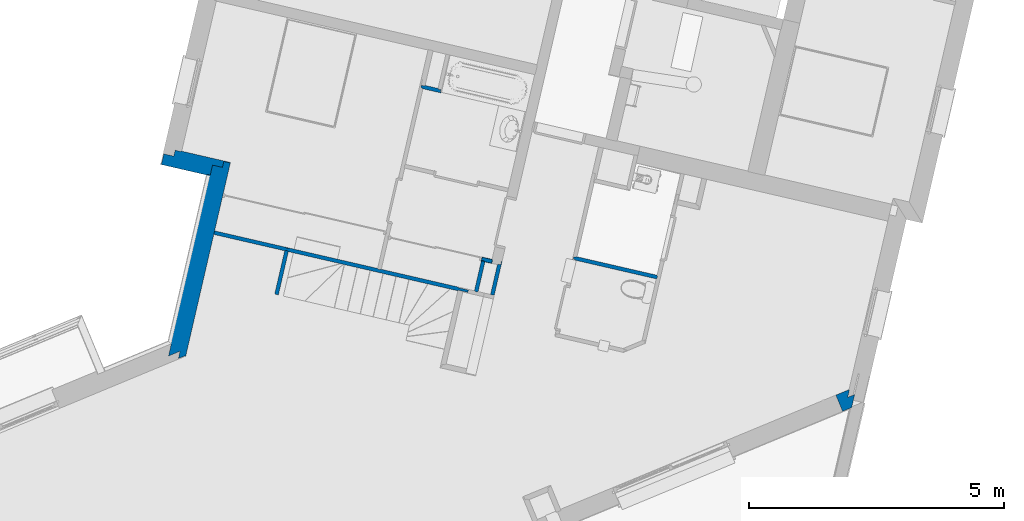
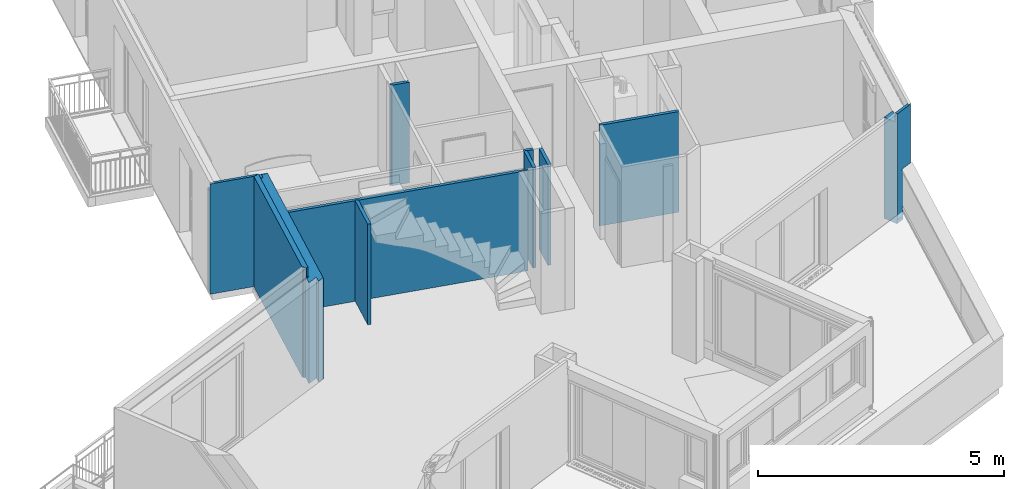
# One storey, part 24 of 62: 10 walls.
"""IFC2X3 building model written with IfcOpenShell, lengths in metres."""

import ifcopenshell
import ifcopenshell.guid

model = None  # the IFC model being written
_history = None  # IfcOwnerHistory: only IFC2X3 demands one
_inside = {}  # id of a spatial element -> (the spatial element, [elements in it])
_under = {}  # id of a project, library or spatial element -> (it, [spatial elements below it])
_declared = {}  # id of a project -> (the project, [libraries it declares])
_typed = {}  # id of a type object -> (the type object, [elements of that type])
_made_of = {}  # id of a material, layer set ... -> (it, [elements and type objects made of it])


def new_model(schema):
    """Start an empty IFC model of exactly this schema.

    Asked for "IFC4X3", IfcOpenShell would pick the latest addendum, in which some entities
    have other attributes; the version numbers below select the first issue.
    IFC2X3 requires an IfcOwnerHistory on every rooted entity: one is made here for all.
    """
    global model, _history
    if schema == "IFC4X3":
        model = ifcopenshell.file(schema_version=(4, 3, 0, 0))
    else:
        model = ifcopenshell.file(schema=schema)
    _inside.clear()
    _under.clear()
    _declared.clear()
    _typed.clear()
    _made_of.clear()
    _history = None
    if model.schema == "IFC2X3":
        org = make("IfcOrganization", Name="unknown")
        user = make(
            "IfcPersonAndOrganization",
            ThePerson=make("IfcPerson", FamilyName="unknown"),
            TheOrganization=org,
        )
        app = make(
            "IfcApplication",
            ApplicationDeveloper=org,
            Version="unknown",
            ApplicationFullName="unknown",
            ApplicationIdentifier="unknown",
        )
        _history = make(
            "IfcOwnerHistory",
            OwningUser=user,
            OwningApplication=app,
            ChangeAction="ADDED",
            CreationDate=0,
        )
    return model


def make(cls, **values):
    """One entity of the class cls with the attributes given. An attribute that is None is left unset."""
    return model.create_entity(
        cls, **{name: value for name, value in values.items() if value is not None}
    )


def entity(cls, *values):
    """Any entity or typed value of the class cls, its attributes in the order of the schema. None: left unset."""
    e = model.create_entity(cls)
    for i, value in enumerate(values):
        if value is not None:
            e[i] = value
    return e


def rooted(cls, **values):
    """An entity with a GlobalId (a new one), such as an element, a storey or a relation."""
    return make(cls, GlobalId=ifcopenshell.guid.new(), OwnerHistory=_history, **values)


def si_unit(unit_type, name, prefix=None):
    """IfcSIUnit, for example si_unit("LENGTHUNIT", "METRE", prefix="MILLI")."""
    return make("IfcSIUnit", UnitType=unit_type, Prefix=prefix, Name=name)


def converted_unit(unit_type, name, factor, base, dimensions=None, offset=None):
    """IfcConversionBasedUnit, such as the inch: factor (a typed value) times the base unit."""
    return make(
        "IfcConversionBasedUnit"
        if offset is None
        else "IfcConversionBasedUnitWithOffset",
        ConversionOffset=offset,
        Dimensions=None
        if dimensions is None
        else entity("IfcDimensionalExponents", *dimensions),
        UnitType=unit_type,
        Name=name,
        ConversionFactor=make(
            "IfcMeasureWithUnit", ValueComponent=factor, UnitComponent=base
        ),
    )


def derived_unit(unit_type, elements):
    """IfcDerivedUnit: a product of units, each with its exponent."""
    return make(
        "IfcDerivedUnit",
        Elements=[
            make("IfcDerivedUnitElement", Unit=unit, Exponent=power)
            for unit, power in elements
        ],
        UnitType=unit_type,
    )


def money_unit(currency):
    """IfcMonetaryUnit."""
    return make("IfcMonetaryUnit", Currency=currency)


def assignment(units):
    """IfcUnitAssignment: the units of a project."""
    return None if units is None else make("IfcUnitAssignment", Units=units)


def point(xyz):
    """IfcCartesianPoint."""
    return None if xyz is None else make("IfcCartesianPoint", Coordinates=xyz)


def direction(xyz):
    """IfcDirection."""
    return None if xyz is None else make("IfcDirection", DirectionRatios=xyz)


def frame(location, z_axis=None, x_axis=None):
    """IfcAxis2Placement3D, a coordinate frame: its origin and axes. An axis left out is left unset."""
    return make(
        "IfcAxis2Placement3D",
        Location=point(location),
        Axis=direction(z_axis),
        RefDirection=direction(x_axis),
    )


def origin_with_axes():
    """The frame at (0, 0, 0) with the z axis (0, 0, 1) and the x axis (1, 0, 0) written out."""
    return frame((0.0, 0.0, 0.0), z_axis=(0.0, 0.0, 1.0), x_axis=(1.0, 0.0, 0.0))


def place(relative_to, where):
    """IfcLocalPlacement: puts the frame where relative to a parent placement (None: the world)."""
    return make(
        "IfcLocalPlacement", PlacementRelTo=relative_to, RelativePlacement=where
    )


def context(
    kind, dimensions, precision=None, world=None, true_north=None, identifier=None
):
    """IfcGeometricRepresentationContext, for example the 3D "Model" context."""
    return make(
        "IfcGeometricRepresentationContext",
        ContextIdentifier=identifier,
        ContextType=kind,
        CoordinateSpaceDimension=dimensions,
        Precision=precision,
        WorldCoordinateSystem=world,
        TrueNorth=true_north,
    )


def subcontext(parent, identifier, kind, view, scale=None):
    """IfcGeometricRepresentationSubContext, for example "Body" below "Model"."""
    return make(
        "IfcGeometricRepresentationSubContext",
        ContextIdentifier=identifier,
        ContextType=kind,
        ParentContext=parent,
        TargetScale=scale,
        TargetView=view,
    )


def project(units=None, contexts=None):
    """IfcProject with its units and contexts."""
    return rooted(
        "IfcProject",
        Name="project",
        RepresentationContexts=contexts,
        UnitsInContext=assignment(units),
    )


def spatial(cls, under=None, at=None, **own):
    """A site, building, storey or space (cls), placed at a placement, below another one or the project."""
    s = rooted(cls, ObjectPlacement=at, **own)
    if under is not None:
        _under.setdefault(under.id(), (under, []))[1].append(s)
    return s


def faces_of(points, faces, orient=None, outer=None):
    """IfcFace entities. A face is a list of loops; a loop is a list of indices into points, from 0.

    orient and outer hold one flag for each loop. By default every Orientation is true, the
    first loop of a face is its IfcFaceOuterBound and the others are IfcFaceBound.
    """
    made = []
    for i, loops in enumerate(faces):
        bounds = []
        for j, loop in enumerate(loops):
            is_outer = j == 0 if outer is None else outer[i][j]
            bounds.append(
                make(
                    "IfcFaceOuterBound" if is_outer else "IfcFaceBound",
                    Bound=make("IfcPolyLoop", Polygon=[points[k] for k in loop]),
                    Orientation=True if orient is None else orient[i][j],
                )
            )
        made.append(make("IfcFace", Bounds=bounds))
    return made


def faceted_brep(points, faces, orient=None, outer=None, voids=None):
    """IfcFacetedBrep: a solid bounded by flat faces; with voids (closed shells), ...WithVoids."""
    shared = [point(p) for p in points]
    hull = make("IfcClosedShell", CfsFaces=faces_of(shared, faces, orient, outer))
    if voids is None:
        return make("IfcFacetedBrep", Outer=hull)
    return make(
        "IfcFacetedBrepWithVoids",
        Outer=hull,
        Voids=[
            make(cls, CfsFaces=faces_of(shared, fs, o, b)) for cls, fs, o, b in voids
        ],
    )


def shape(context_of_items, identifier, shape_type, items):
    """IfcShapeRepresentation: the items that make up one representation, for example the "Body"."""
    return make(
        "IfcShapeRepresentation",
        ContextOfItems=context_of_items,
        RepresentationIdentifier=identifier,
        RepresentationType=shape_type,
        Items=items,
    )


def material(Name=None, Category=None):
    """IfcMaterial."""
    return make("IfcMaterial", Name=Name, Category=Category)


def material_list(materials):
    """IfcMaterialList."""
    return make("IfcMaterialList", Materials=materials)


def made_of(thing, what):
    """Note that an element or type object is made of a material, layer set ...; save() writes the relation."""
    if what is not None:
        _made_of.setdefault(what.id(), (what, []))[1].append(thing)
    return thing


def type_object(cls, material=None, **own):
    """A type object (cls), such as IfcWallType, which elements share."""
    return made_of(rooted(cls, **own), material)


def element(
    cls,
    number,
    at=None,
    inside=None,
    cuts=None,
    type_object=None,
    material=None,
    context=None,
    identifier="Body",
    shape_type=None,
    held_by="IfcProductDefinitionShape",
    body=None,
    shapes=None,
    **own,
):
    """One element of the class cls, such as IfcWall. Its Tag is "e" and its number.

    at: its placement. inside: the storey or other place that contains it. cuts: it is an
    opening in that element (IfcRelVoidsElement). A single representation is given by context,
    identifier, shape_type and body (its items); several are given by shapes. held_by: the class
    of the entity that holds the representations. save() writes the other relations.
    """
    e = rooted(cls, Tag="e%d" % number, ObjectPlacement=at, **own)
    if body is not None:
        shapes = [shape(context, identifier, shape_type, body)]
    if shapes is not None:
        e.Representation = make(held_by, Representations=shapes)
    if inside is not None:
        _inside.setdefault(inside.id(), (inside, []))[1].append(e)
    if cuts is not None:
        rooted(
            "IfcRelVoidsElement", RelatingBuildingElement=cuts, RelatedOpeningElement=e
        )
    if type_object is not None:
        _typed.setdefault(type_object.id(), (type_object, []))[1].append(e)
    return made_of(e, material)


def aggregate(whole, parts):
    """IfcRelAggregates: a whole, such as a stair, and the parts it consists of."""
    return rooted("IfcRelAggregates", RelatingObject=whole, RelatedObjects=parts)


def save(model, path):
    """Write the relations noted so far, then the file.

    IfcRelAggregates (storeys below a building ...), IfcRelContainedInSpatialStructure (elements
    in a storey), IfcRelDefinesByType, IfcRelAssociatesMaterial and IfcRelDeclares: one each for
    every whole, place, type object, material and project.
    """
    for whole, parts in _under.values():
        aggregate(whole, parts)
    for where, things in _inside.values():
        rooted(
            "IfcRelContainedInSpatialStructure",
            RelatedElements=things,
            RelatingStructure=where,
        )
    for kind, things in _typed.values():
        rooted("IfcRelDefinesByType", RelatedObjects=things, RelatingType=kind)
    for what, things in _made_of.values():
        rooted("IfcRelAssociatesMaterial", RelatedObjects=things, RelatingMaterial=what)
    for by, libraries in _declared.values():
        rooted("IfcRelDeclares", RelatingContext=by, RelatedDefinitions=libraries)
    model.write(path)


model = new_model("IFC2X3")

# Units and contexts
model_context = context("Model", 3, precision=1e-05, world=origin_with_axes(), true_north=direction((0.0, 1.0)))
body_context = subcontext(model_context, "Body", "Model", "MODEL_VIEW")
ifc_project = project(units=[si_unit("LENGTHUNIT", "METRE"), si_unit("AREAUNIT", "SQUARE_METRE"), si_unit("VOLUMEUNIT", "CUBIC_METRE"), converted_unit("PLANEANGLEUNIT", "DEGREE", entity("IfcPlaneAngleMeasure", 0.0174532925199), si_unit("PLANEANGLEUNIT", "RADIAN"), dimensions=[0, 0, 0, 0, 0, 0, 0]), si_unit("SOLIDANGLEUNIT", "STERADIAN"), money_unit("EUR"), converted_unit("TIMEUNIT", "Year", entity("IfcTimeMeasure", 31556926.0), si_unit("TIMEUNIT", "SECOND"), dimensions=[0, 0, 1, 0, 0, 0, 0]), si_unit("MASSUNIT", "GRAM", prefix="KILO"), si_unit("THERMODYNAMICTEMPERATUREUNIT", "DEGREE_CELSIUS"), si_unit("LUMINOUSINTENSITYUNIT", "LUMEN"), si_unit("ENERGYUNIT", "JOULE", prefix="MEGA"), derived_unit("THERMALCONDUCTANCEUNIT", [(si_unit("POWERUNIT", "WATT"), 1), (si_unit("LENGTHUNIT", "METRE"), -1), (si_unit("THERMODYNAMICTEMPERATUREUNIT", "KELVIN"), -1)]), derived_unit("SPECIFICHEATCAPACITYUNIT", [(si_unit("ENERGYUNIT", "JOULE"), 1), (si_unit("MASSUNIT", "GRAM", prefix="KILO"), -1), (si_unit("THERMODYNAMICTEMPERATUREUNIT", "KELVIN"), -1)]), derived_unit("MASSDENSITYUNIT", [(si_unit("MASSUNIT", "GRAM", prefix="KILO"), 1), (si_unit("VOLUMEUNIT", "CUBIC_METRE"), -1)])], contexts=[model_context])

# Site, building, storey
site_placement = place(None, origin_with_axes())
site = spatial("IfcSite", under=ifc_project, at=site_placement, Name="Site", CompositionType="ELEMENT")
building_placement = place(site_placement, origin_with_axes())
building = spatial("IfcBuilding", under=site, at=building_placement, Name="Bâtiment", CompositionType="ELEMENT")
storey_placement = place(building_placement, frame((0.0, 0.0, 8.16), z_axis=(0.0, 0.0, 1.0), x_axis=(1.0, 0.0, 0.0)))
storey = spatial("IfcBuildingStorey", under=building, at=storey_placement, Name="R+3", CompositionType="ELEMENT", Elevation=8.16)

# Walls
ifc_material_1 = material(Name="Finition int - Plaque de plâtre")
ifc_material_2 = material(Name="Isolation - Laine de roche")
ifc_material_list_1 = material_list([ifc_material_1, ifc_material_2, ifc_material_1])
wall_type_1 = type_object("IfcWallType", Name="3 - Cloison 72mm Placostil 74", PredefinedType="USERDEFINED")
wall_1_placement = place(storey_placement, frame((-13.304120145, -11.2336515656, 0.0), z_axis=(0.0, 0.0, 1.0), x_axis=(-0.974387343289, 0.224876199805, 0.0)))
element("IfcWall", 1, at=wall_1_placement, inside=storey, type_object=wall_type_1, material=ifc_material_list_1, Name="Cloison Placostil 72/48", ObjectType="PARTITIONING", context=body_context, shape_type="Brep", body=[
    faceted_brep([(0.385, -0.013, 2.5), (0.398000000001, -0.013, 2.5), (0.398000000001, 0.0, 2.5), (0.385000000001, 0.0, 2.5), (0.385, -0.013, 0.0), (0.398000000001, -0.013, 0.0), (0.398000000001, 0.0, 0.0), (0.385000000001, 0.0, 0.0)], [[[0, 1, 2, 3]], [[4, 5, 1, 0]], [[2, 1, 5, 6]], [[3, 2, 6, 7]], [[4, 0, 3, 7]], [[7, 6, 5, 4]]]),
    faceted_brep([(0.337, -0.013, 2.5), (0.337000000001, 0.0, 2.5), (0.18999999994, 0.0, 2.5), (0.18999999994, -0.013, 2.5), (0.337, -0.013, 0.0), (0.337000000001, 0.0, 0.0), (0.18999999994, 0.0, 0.0), (0.18999999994, -0.013, 0.0)], [[[0, 1, 2, 3]], [[1, 0, 4, 5]], [[1, 5, 6, 2]], [[7, 3, 2, 6]], [[4, 0, 3, 7]], [[5, 4, 7, 6]]]),
    faceted_brep([(0.189999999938, -0.061, 2.5), (0.398000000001, -0.061, 2.5), (0.398000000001, -0.013, 2.5), (0.18999999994, -0.013, 2.5), (0.189999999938, -0.061, 0.0), (0.398000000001, -0.061, 0.0), (0.398000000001, -0.013, 0.0), (0.18999999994, -0.013, 0.0)], [[[0, 1, 2, 3]], [[4, 5, 1, 0]], [[2, 1, 5, 6]], [[3, 2, 6, 7]], [[4, 0, 3, 7]], [[7, 6, 5, 4]]]),
    faceted_brep([(0.00999999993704, -0.074, 2.5), (0.00999999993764, -0.061, 2.5), (0.0, -0.061, 2.5), (0.0, -0.074, 2.5), (0.00999999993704, -0.074, 0.0), (0.00999999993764, -0.061, 0.0), (0.0, -0.061, 0.0), (0.0, -0.074, 0.0)], [[[0, 1, 2, 3]], [[1, 0, 4, 5]], [[1, 5, 6, 2]], [[7, 3, 2, 6]], [[4, 0, 3, 7]], [[5, 4, 7, 6]]]),
    faceted_brep([(0.189999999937, -0.074, 2.5), (0.398000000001, -0.074, 2.5), (0.398000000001, -0.061, 2.5), (0.189999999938, -0.061, 2.5), (0.189999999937, -0.074, 0.0), (0.398000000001, -0.074, 0.0), (0.398000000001, -0.061, 0.0), (0.189999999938, -0.061, 0.0)], [[[0, 1, 2, 3]], [[4, 5, 1, 0]], [[2, 1, 5, 6]], [[3, 2, 6, 7]], [[4, 0, 3, 7]], [[7, 6, 5, 4]]]),
])
wall_2_placement = place(storey_placement, frame((-14.1517494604, -11.7297462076, 0.0), z_axis=(0.0, 0.0, 1.0), x_axis=(-0.974387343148, 0.224876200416, 0.0)))
element("IfcWall", 2, at=wall_2_placement, inside=storey, type_object=wall_type_1, material=ifc_material_list_1, Name="Cloison Placostil 72/48", ObjectType="PARTITIONING", context=body_context, shape_type="Brep", body=[
    faceted_brep([(3.41995097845, 0.0, 2.5), (0.0, 0.0, 2.5), (0.0, -0.013, 2.5), (3.41995097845, -0.013, 2.5), (3.41995097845, 0.0, 0.0), (0.0, 0.0, 0.0), (0.0, -0.013, 0.0), (3.41995097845, -0.013, 0.0)], [[[0, 1, 2, 3]], [[4, 5, 1, 0]], [[5, 6, 2, 1]], [[3, 2, 6, 7]], [[7, 4, 0, 3]], [[7, 6, 5, 4]]]),
    faceted_brep([(3.46795097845, 0.0, 2.5), (3.46795097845, -0.013, 2.5), (4.90595098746, -0.013, 2.5), (4.90595098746, 0.0, 2.5), (3.46795097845, 0.0, 0.0), (3.46795097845, -0.013, 0.0), (4.90595098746, -0.013, 0.0), (4.90595098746, 0.0, 0.0)], [[[0, 1, 2, 3]], [[1, 0, 4, 5]], [[1, 5, 6, 2]], [[7, 3, 2, 6]], [[4, 0, 3, 7]], [[5, 4, 7, 6]]]),
    faceted_brep([(4.90595098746, -0.013, 2.5), (-0.2, -0.013, 2.5), (-0.2, -0.061, 2.5), (4.90595098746, -0.061, 2.5), (4.90595098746, -0.013, 0.0), (-0.2, -0.013, 0.0), (-0.2, -0.061, 0.0), (4.90595098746, -0.061, 0.0)], [[[0, 1, 2, 3]], [[4, 5, 1, 0]], [[1, 5, 6, 2]], [[3, 2, 6, 7]], [[7, 4, 0, 3]], [[7, 6, 5, 4]]]),
    faceted_brep([(1.5686406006, -0.061, 2.5), (0.0, -0.061, 2.5), (0.0, -0.074, 2.5), (1.56864060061, -0.074, 2.5), (1.5686406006, -0.061, 0.0), (0.0, -0.061, 0.0), (0.0, -0.074, 0.0), (1.56864060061, -0.074, 0.0)], [[[0, 1, 2, 3]], [[4, 5, 1, 0]], [[5, 6, 2, 1]], [[3, 2, 6, 7]], [[7, 4, 0, 3]], [[7, 6, 5, 4]]]),
    faceted_brep([(1.6166406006, -0.061, 2.5), (1.61664060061, -0.074, 2.5), (3.41995097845, -0.074, 2.5), (3.41995097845, -0.061, 2.5), (1.6166406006, -0.061, 0.0), (1.61664060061, -0.074, 0.0), (3.41995097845, -0.074, 0.0), (3.41995097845, -0.061, 0.0)], [[[0, 1, 2, 3]], [[1, 0, 4, 5]], [[1, 5, 6, 2]], [[7, 3, 2, 6]], [[4, 0, 3, 7]], [[5, 4, 7, 6]]]),
    faceted_brep([(3.46795097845, -0.061, 2.5), (3.46795097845, -0.074, 2.5), (4.90595098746, -0.074, 2.5), (4.90595098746, -0.061, 2.5), (3.46795097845, -0.061, 0.0), (3.46795097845, -0.074, 0.0), (4.90595098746, -0.074, 0.0), (4.90595098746, -0.061, 0.0)], [[[0, 1, 2, 3]], [[1, 0, 4, 5]], [[1, 5, 6, 2]], [[7, 3, 2, 6]], [[4, 0, 3, 7]], [[5, 4, 7, 6]]]),
])
wall_3_placement = place(storey_placement, frame((-11.8896756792, -11.0459181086, 0.0), z_axis=(0.0, 0.0, 1.0), x_axis=(0.974387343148, -0.224876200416, 0.0)))
element("IfcWall", 3, at=wall_3_placement, inside=storey, type_object=wall_type_1, material=ifc_material_list_1, Name="Cloison Placostil 72/48", ObjectType="PARTITIONING", context=body_context, shape_type="Brep", body=[
    faceted_brep([(1.68499999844, -0.013, 2.5), (1.68499999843, 0.0, 2.5), (0.061, 0.0, 2.5), (0.0610000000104, -0.013, 2.5), (1.68499999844, -0.013, 0.0), (1.68499999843, 0.0, 0.0), (0.061, 0.0, 0.0), (0.0610000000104, -0.013, 0.0)], [[[0, 1, 2, 3]], [[1, 0, 4, 5]], [[1, 5, 6, 2]], [[7, 3, 2, 6]], [[4, 0, 3, 7]], [[5, 4, 7, 6]]]),
    faceted_brep([(1.69799999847, -0.061, 2.5), (1.69799999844, -0.013, 2.5), (0.0130000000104, -0.013, 2.5), (0.0130000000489, -0.061, 2.5), (1.69799999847, -0.061, 0.0), (1.69799999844, -0.013, 0.0), (0.0130000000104, -0.013, 0.0), (0.0130000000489, -0.061, 0.0)], [[[0, 1, 2, 3]], [[1, 0, 4, 5]], [[1, 5, 6, 2]], [[7, 3, 2, 6]], [[4, 0, 3, 7]], [[5, 4, 7, 6]]]),
    faceted_brep([(1.68499999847, -0.074, 2.5), (1.68499999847, -0.061, 2.5), (0.0609999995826, -0.061, 2.5), (0.0609999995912, -0.074, 2.5), (1.68499999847, -0.074, 0.0), (1.68499999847, -0.061, 0.0), (0.0609999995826, -0.061, 0.0), (0.0609999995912, -0.074, 0.0)], [[[0, 1, 2, 3]], [[1, 0, 4, 5]], [[1, 5, 6, 2]], [[7, 3, 2, 6]], [[4, 0, 3, 7]], [[5, 4, 7, 6]]]),
    faceted_brep([(0.0129999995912, -0.074, 2.5), (0.0129999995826, -0.061, 2.5), (0.0, -0.061, 2.5), (0.0, -0.074, 2.5), (0.0129999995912, -0.074, 0.0), (0.0129999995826, -0.061, 0.0), (0.0, -0.061, 0.0), (0.0, -0.074, 0.0)], [[[0, 1, 2, 3]], [[1, 0, 4, 5]], [[1, 5, 6, 2]], [[7, 3, 2, 6]], [[4, 0, 3, 7]], [[5, 4, 7, 6]]]),
])
wall_4_placement = place(storey_placement, frame((-13.7713882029, -11.8175287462, 0.0), z_axis=(0.0, 0.0, 1.0), x_axis=(0.224876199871, 0.974387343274, 0.0)))
element("IfcWall", 4, at=wall_4_placement, inside=storey, type_object=wall_type_1, material=ifc_material_list_1, Name="Cloison Placostil 72/48", ObjectType="PARTITIONING", context=body_context, shape_type="Brep", body=[
    faceted_brep([(0.673999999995, 0.074, 0.0), (0.673999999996, 0.061, 0.0), (0.074000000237, 0.061, 0.0), (0.0740000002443, 0.074, 0.0), (0.673999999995, 0.074, 2.5), (0.673999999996, 0.061, 2.5), (0.074000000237, 0.061, 2.5), (0.0740000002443, 0.074, 2.5)], [[[0, 1, 2, 3]], [[1, 0, 4, 5]], [[1, 5, 6, 2]], [[7, 3, 2, 6]], [[4, 0, 3, 7]], [[5, 4, 7, 6]]]),
    faceted_brep([(0.686999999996, 0.061, 0.0), (0.686999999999, 0.013, 0.0), (0.0610000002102, 0.013, 0.0), (0.061000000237, 0.061, 0.0), (0.686999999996, 0.061, 2.5), (0.686999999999, 0.013, 2.5), (0.0610000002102, 0.013, 2.5), (0.061000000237, 0.061, 2.5)], [[[0, 1, 2, 3]], [[1, 0, 4, 5]], [[1, 5, 6, 2]], [[7, 3, 2, 6]], [[4, 0, 3, 7]], [[5, 4, 7, 6]]]),
    faceted_brep([(0.673999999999, 0.013, 0.0), (0.674, 0.0, 0.0), (0.0740000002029, 0.0, 0.0), (0.0740000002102, 0.013, 0.0), (0.673999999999, 0.013, 2.5), (0.674, 0.0, 2.5), (0.0740000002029, 0.0, 2.5), (0.0740000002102, 0.013, 2.5)], [[[0, 1, 2, 3]], [[1, 0, 4, 5]], [[1, 5, 6, 2]], [[7, 3, 2, 6]], [[4, 0, 3, 7]], [[5, 4, 7, 6]]]),
])
wall_5_placement = place(storey_placement, frame((-13.4390458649, -11.8182839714, 0.0), z_axis=(0.0, 0.0, 1.0), x_axis=(0.224876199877, 0.974387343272, 0.0)))
element("IfcWall", 5, at=wall_5_placement, inside=storey, type_object=wall_type_1, material=ifc_material_list_1, Name="Cloison Placostil 72/48", ObjectType="PARTITIONING", context=body_context, shape_type="Brep", body=[
    faceted_brep([(0.599999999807, 0.074, 0.0), (0.599999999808, 0.061, 0.0), (0.0, 0.061, 0.0), (0.0, 0.074, 0.0), (0.599999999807, 0.074, 2.5), (0.599999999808, 0.061, 2.5), (0.0, 0.061, 2.5), (0.0, 0.074, 2.5)], [[[0, 1, 2, 3]], [[1, 0, 4, 5]], [[1, 5, 6, 2]], [[7, 3, 2, 6]], [[4, 0, 3, 7]], [[5, 4, 7, 6]]]),
    faceted_brep([(0.612999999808, 0.061, 0.0), (0.612999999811, 0.013, 0.0), (0.0, 0.013, 0.0), (0.0, 0.061, 0.0), (0.612999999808, 0.061, 2.5), (0.612999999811, 0.013, 2.5), (0.0, 0.013, 2.5), (0.0, 0.061, 2.5)], [[[0, 1, 2, 3]], [[1, 0, 4, 5]], [[1, 5, 6, 2]], [[7, 3, 2, 6]], [[4, 0, 3, 7]], [[5, 4, 7, 6]]]),
    faceted_brep([(0.660999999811, 0.013, 0.0), (0.660999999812, 0.0, 0.0), (0.0, 0.0, 0.0), (0.0, 0.013, 0.0), (0.660999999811, 0.013, 2.5), (0.660999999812, 0.0, 2.5), (0.0, 0.0, 2.5), (0.0, 0.013, 2.5)], [[[0, 1, 2, 3]], [[1, 0, 4, 5]], [[1, 5, 6, 2]], [[7, 3, 2, 6]], [[4, 0, 3, 7]], [[5, 4, 7, 6]]]),
])
wall_6_placement = place(storey_placement, frame((-17.4547985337, -10.8914993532, 0.0), z_axis=(0.0, 0.0, 1.0), x_axis=(-0.224876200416, -0.974387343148, 0.0)))
element("IfcWall", 6, at=wall_6_placement, inside=storey, type_object=wall_type_1, material=ifc_material_list_1, Name="Cloison Placostil 72/48", ObjectType="PARTITIONING", context=body_context, shape_type="Brep", body=[
    faceted_brep([(0.074, -0.013, 2.5), (0.944000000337, -0.013, 2.5), (0.944000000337, 0.0, 2.5), (0.074, 0.0, 2.5), (0.074, -0.013, 0.0), (0.944000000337, -0.013, 0.0), (0.944000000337, 0.0, 0.0), (0.074, 0.0, 0.0)], [[[0, 1, 2, 3]], [[4, 5, 1, 0]], [[2, 1, 5, 6]], [[3, 2, 6, 7]], [[4, 0, 3, 7]], [[7, 6, 5, 4]]]),
    faceted_brep([(0.061, -0.061, 2.5), (0.944000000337, -0.061, 2.5), (0.944000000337, -0.013, 2.5), (0.061, -0.013, 2.5), (0.061, -0.061, 0.0), (0.944000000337, -0.061, 0.0), (0.944000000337, -0.013, 0.0), (0.061, -0.013, 0.0)], [[[0, 1, 2, 3]], [[4, 5, 1, 0]], [[2, 1, 5, 6]], [[3, 2, 6, 7]], [[4, 0, 3, 7]], [[7, 6, 5, 4]]]),
    faceted_brep([(0.013, -0.061, 2.5), (0.013, -0.013, 2.5), (0.0, -0.013, 2.5), (0.0, -0.061, 2.5), (0.013, -0.061, 0.0), (0.013, -0.013, 0.0), (0.0, -0.013, 0.0), (0.0, -0.061, 0.0)], [[[0, 1, 2, 3]], [[1, 0, 4, 5]], [[1, 5, 6, 2]], [[7, 3, 2, 6]], [[4, 0, 3, 7]], [[5, 4, 7, 6]]]),
    faceted_brep([(0.074, -0.074, 2.5), (0.944000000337, -0.074, 2.5), (0.944000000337, -0.061, 2.5), (0.074, -0.061, 2.5), (0.074, -0.074, 0.0), (0.944000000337, -0.074, 0.0), (0.944000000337, -0.061, 0.0), (0.074, -0.061, 0.0)], [[[0, 1, 2, 3]], [[4, 5, 1, 0]], [[2, 1, 5, 6]], [[3, 2, 6, 7]], [[4, 0, 3, 7]], [[7, 6, 5, 4]]]),
])
wall_type_2 = type_object("IfcWallType", Name="3 - Cloison Gaine Technique 72mm 74", PredefinedType="USERDEFINED")
wall_7_placement = place(storey_placement, frame((-14.9071589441, -7.75609687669, 0.0), z_axis=(0.0, 0.0, 1.0), x_axis=(0.974387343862, -0.224876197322, 0.0)))
element("IfcWall", 7, at=wall_7_placement, inside=storey, type_object=wall_type_2, material=ifc_material_list_1, Name="Cloison Placostil 72/48", ObjectType="PARTITIONING", context=body_context, shape_type="Brep", body=[
    faceted_brep([(0.372999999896, 0.074, 0.0), (0.372999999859, 0.061, 0.0), (0.0870000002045, 0.061, 0.0), (0.0870000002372, 0.074, 0.0), (0.372999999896, 0.074, 2.5), (0.372999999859, 0.061, 2.5), (0.0870000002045, 0.061, 2.5), (0.0870000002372, 0.074, 2.5)], [[[0, 1, 2, 3]], [[1, 0, 4, 5]], [[1, 5, 6, 2]], [[7, 3, 2, 6]], [[4, 0, 3, 7]], [[5, 4, 7, 6]]]),
    faceted_brep([(0.0260000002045, 0.061, 0.0), (0.420999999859, 0.061, 0.0), (0.42099999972, 0.013, 0.0), (0.026000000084, 0.013, 0.0), (0.0260000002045, 0.061, 2.5), (0.420999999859, 0.061, 2.5), (0.42099999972, 0.013, 2.5), (0.026000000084, 0.013, 2.5)], [[[0, 1, 2, 3]], [[4, 5, 1, 0]], [[6, 2, 1, 5]], [[3, 2, 6, 7]], [[7, 4, 0, 3]], [[7, 6, 5, 4]]]),
    faceted_brep([(0.43399999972, 0.013, 0.0), (0.061000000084, 0.013, 0.0), (0.061000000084, 0.013, 2.5), (0.43399999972, 0.013, 2.5), (0.433999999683, 0.0, 0.0), (0.0610000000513, 0.0, 0.0), (0.0610000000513, 0.0, 2.5), (0.433999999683, 0.0, 2.5)], [[[0, 1, 2, 3]], [[4, 5, 1, 0]], [[5, 6, 2, 1]], [[3, 2, 6, 7]], [[7, 4, 0, 3]], [[7, 6, 5, 4]]]),
])
ifc_material_3 = material(Name="Isolation - Polystyrène extrudé")
ifc_material_4 = material(Name="Bloc ELITHERM")
ifc_material_5 = material(Name="Mortier")
ifc_material_6 = material(Name="Béton cellulaire")
ifc_material_7 = material(Name="Finition ext - Crépis")
ifc_material_list_2 = material_list([ifc_material_1, ifc_material_3, ifc_material_4, ifc_material_5, ifc_material_6, ifc_material_7])
wall_type_3 = type_object("IfcWallType", Name="Mur ALKERN + planelle 23 345 x 2740", PredefinedType="USERDEFINED")
wall_8_placement = place(storey_placement, frame((-6.6144795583, -14.0914734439, 0.0), z_axis=(0.0, 0.0, 1.0), x_axis=(0.923701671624, 0.383112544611, 0.0)))
element("IfcWall", 8, at=wall_8_placement, inside=storey, type_object=wall_type_3, material=ifc_material_list_2, Name="Mue bloc ALKERN isolé", ObjectType="SOLIDWALL", context=body_context, shape_type="Brep", body=[
    faceted_brep([(0.0, 0.335000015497, 2.51), (0.271147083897, 0.335000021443, 2.5100000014), (0.278285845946, 0.344999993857, 2.51000000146), (0.0, 0.34499998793, 2.51), (0.271147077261, 0.335000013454, 0.357041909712), (0.271147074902, 0.335000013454, 1.26000604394), (0.0, 0.335000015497, 0.0), (0.271147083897, 0.335000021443, 0.0), (0.271147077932, 0.335000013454, 0.100000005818), (0.271147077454, 0.335000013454, 0.282882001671), (0.271147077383, 0.335000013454, 0.30999999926), (0.27114707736, 0.335000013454, 0.318976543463), (0.278285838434, 0.34499998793, 1.26000604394), (0.278285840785, 0.34499998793, 0.357041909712), (0.278285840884, 0.34499998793, 0.318976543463), (0.278285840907, 0.34499998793, 0.30999999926), (0.278285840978, 0.34499998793, 0.282882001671), (0.278285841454, 0.34499998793, 0.100000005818), (0.278285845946, 0.344999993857, 0.0), (0.0, 0.34499998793, 0.0)], [[[0, 1, 2, 3]], [[4, 5, 1, 0, 6, 7, 8, 9, 10, 11]], [[5, 12, 2, 1]], [[3, 2, 12, 13, 14, 15, 16, 17, 18, 19]], [[19, 6, 0, 3]], [[13, 12, 5, 4]], [[19, 18, 7, 6]], [[18, 17, 8, 7]], [[17, 16, 9, 8]], [[16, 15, 10, 9]], [[15, 14, 11, 10]], [[14, 13, 4, 11]]]),
    faceted_brep([(0.0, 0.215000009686, 2.51), (0.19776832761, 0.215000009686, 2.51000000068), (0.283433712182, 0.335000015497, 2.51000000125), (0.0, 0.335000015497, 2.51), (0.197768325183, 0.215000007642, 0.357041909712), (0.197768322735, 0.215000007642, 1.26000604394), (0.0, 0.215000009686, 0.0), (0.19776832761, 0.215000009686, 0.0), (0.197768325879, 0.215000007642, 0.100000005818), (0.197768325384, 0.215000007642, 0.282882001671), (0.19776832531, 0.215000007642, 0.30999999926), (0.197768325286, 0.215000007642, 0.318976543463), (0.283433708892, 0.335000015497, 1.26000604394), (0.28343371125, 0.335000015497, 0.357041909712), (0.283433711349, 0.335000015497, 0.318976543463), (0.283433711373, 0.335000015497, 0.30999999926), (0.283433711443, 0.335000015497, 0.282882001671), (0.283433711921, 0.335000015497, 0.100000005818), (0.283433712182, 0.335000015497, 0.0), (0.0, 0.335000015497, 0.0)], [[[0, 1, 2, 3]], [[4, 5, 1, 0, 6, 7, 8, 9, 10, 11]], [[5, 12, 2, 1]], [[3, 2, 12, 13, 14, 15, 16, 17, 18, 19]], [[19, 6, 0, 3]], [[13, 12, 5, 4]], [[19, 18, 7, 6]], [[18, 17, 8, 7]], [[17, 16, 9, 8]], [[16, 15, 10, 9]], [[15, 14, 11, 10]], [[14, 13, 4, 11]]]),
    faceted_brep([(0.202432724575, 0.014999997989, 1.28), (0.277017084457, 0.11947770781, 1.28), (0.277017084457, 0.11947770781, 1.278), (0.277017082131, 0.11947770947, 1.26000604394), (0.345208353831, 0.214999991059, 1.26000604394), (0.345208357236, 0.214999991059, 2.50999999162), (0.25097643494, 0.0829999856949, 2.50999999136), (0.202432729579, 0.015, 2.50999999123), (0.244456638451, 0.142721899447, 1.28), (0.153278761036, 0.0149999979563, 1.28), (0.245927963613, 0.141671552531, 1.278), (0.244456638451, 0.142721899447, 1.278), (0.245927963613, 0.141671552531, 1.23802453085), (0.250625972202, 0.138317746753, 1.23802453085), (0.277017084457, 0.11947770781, 1.23802453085), (0.277017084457, 0.11947770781, 1.23374689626), (0.277017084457, 0.11947770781, 1.23), (0.20243272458, 0.0149999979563, 1.23), (0.202432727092, 0.0149999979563, 0.357041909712), (0.345208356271, 0.214999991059, 0.357041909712), (0.0, 0.214999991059, 2.50999999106), (0.343923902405, 0.214999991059, 0.357041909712), (0.343923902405, 0.214999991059, 0.320023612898), (0.33958739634, 0.214999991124, 0.318976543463), (0.311438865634, 0.214999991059, 0.312179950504), (0.311438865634, 0.214999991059, 0.30999999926), (0.311438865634, 0.214999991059, 0.282882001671), (0.312955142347, 0.214999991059, 0.282882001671), (0.312955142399, 0.214999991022, 0.30999999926), (0.312955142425, 0.214999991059, 0.311101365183), (0.345208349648, 0.214999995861, 0.318976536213), (0.345208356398, 0.214999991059, 0.30999999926), (0.345208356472, 0.214999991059, 0.282882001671), (0.345208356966, 0.214999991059, 0.100000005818), (0.345208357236, 0.214999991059, 0.0), (0.0, 0.214999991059, 0.0), (0.0, 0.0829999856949, 2.50999999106), (0.0, 0.015, 2.50999999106), (0.153278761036, 0.0149999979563, 1.278), (0.0, 0.015, 0.0), (0.202432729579, 0.015, 0.0), (0.202432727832, 0.0149999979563, 0.100000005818), (0.202432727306, 0.0149999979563, 0.282882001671), (0.202432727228, 0.0149999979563, 0.30999999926), (0.202432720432, 0.0150000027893, 0.318976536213), (0.170179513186, 0.0149999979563, 0.311101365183), (0.17017951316, 0.0149999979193, 0.30999999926), (0.170179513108, 0.0149999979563, 0.282882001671), (0.168663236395, 0.0149999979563, 0.282882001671), (0.168663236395, 0.0149999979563, 0.30999999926), (0.168663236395, 0.0149999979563, 0.312179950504), (0.196811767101, 0.0149999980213, 0.318976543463), (0.201148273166, 0.0149999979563, 0.320023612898), (0.201148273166, 0.0149999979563, 0.357041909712), (0.153278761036, 0.0149999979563, 1.23), (0.153278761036, 0.0149999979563, 1.23374689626), (0.153278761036, 0.0149999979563, 1.23802453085), (0.244456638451, 0.142721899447, 1.23802453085), (0.24592796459, 0.141671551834, 1.23374689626), (0.251444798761, 0.137733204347, 1.23636286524), (0.248571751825, 0.139784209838, 1.23374689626), (0.244456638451, 0.142721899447, 1.23), (0.244456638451, 0.142721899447, 1.23374689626)], [[[0, 1, 2, 3, 4, 5, 6, 7]], [[8, 1, 0, 9]], [[10, 2, 1, 8, 11]], [[3, 2, 10, 12, 13, 14]], [[4, 3, 14, 15, 16, 17, 18, 19]], [[20, 5, 4, 19, 21, 22, 23, 24, 25, 26, 27, 28, 29, 30, 31, 32, 33, 34, 35]], [[36, 6, 5, 20]], [[37, 7, 6, 36]], [[38, 9, 0, 7, 37, 39, 40, 41, 42, 43, 44, 45, 46, 47, 48, 49, 50, 51, 52, 53, 18, 17, 54, 55, 56]], [[9, 38, 11, 8]], [[12, 10, 11, 57]], [[58, 13, 12]], [[15, 14, 13, 59, 60]], [[16, 15, 60, 61]], [[16, 61, 54, 17]], [[21, 19, 18, 53]], [[52, 22, 21, 53]], [[51, 23, 22, 52]], [[24, 23, 51, 50]], [[49, 25, 24, 50]], [[26, 25, 49, 48]], [[47, 27, 26, 48]], [[47, 46, 28, 27]], [[45, 29, 28, 46]], [[44, 30, 29, 45]], [[43, 31, 30, 44]], [[32, 31, 43, 42]], [[33, 32, 42, 41]], [[34, 33, 41, 40]], [[35, 34, 40, 39]], [[20, 35, 39, 37, 36]], [[61, 62, 55, 54]], [[62, 57, 56, 55]], [[57, 11, 38, 56]], [[58, 12, 57, 62]], [[59, 13, 58, 60]], [[60, 58, 62, 61]]]),
    faceted_brep([(0.364616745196, 0.0150000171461, 2.51999999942), (0.413160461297, 0.0830000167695, 2.51999999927), (0.0, 0.083, 2.52), (0.0, 0.015, 2.52), (0.413160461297, 0.0830000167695, 2.50999999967), (0.364616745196, 0.0150000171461, 2.51000000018), (0.0, 0.083, 2.51), (0.0, 0.015, 2.51)], [[[0, 1, 2, 3]], [[4, 1, 0, 5]], [[1, 4, 6, 2]], [[7, 3, 2, 6]], [[5, 0, 3, 7]], [[4, 5, 7, 6]]]),
    faceted_brep([(0.389190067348, 0.015, 2.74), (0.423456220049, 0.0630000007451, 2.74), (0.0, 0.0630000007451, 2.74), (0.0, 0.015, 2.74), (0.423456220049, 0.0630000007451, 2.51999999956), (0.389190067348, 0.015, 2.51999999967), (0.0, 0.0630000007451, 2.5200000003), (0.0, 0.015, 2.5200000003)], [[[0, 1, 2, 3]], [[4, 1, 0, 5]], [[1, 4, 6, 2]], [[3, 2, 6, 7]], [[5, 0, 3, 7]], [[4, 5, 7, 6]]]),
    faceted_brep([(0.191724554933, -1.60504853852e-09, 0.1), (0.202432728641, 0.015, 0.1), (0.202432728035, 0.0149999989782, 0.282882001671), (0.19172455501, -1.66047620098e-09, 0.282882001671), (0.0, 0.0149999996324, 0.1), (0.0, 0.0, 0.1), (0.0, 0.0150000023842, 2.74), (0.448166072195, 0.0150000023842, 2.74), (0.448166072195, 0.0150000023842, 2.51999999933), (0.448166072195, 0.0150000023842, 2.50999999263), (0.448166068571, 0.0150000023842, 1.26000604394), (0.423369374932, 0.0150000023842, 1.26000604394), (0.423369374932, 0.0150000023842, 1.278), (0.423369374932, 0.0150000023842, 1.28), (0.153278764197, 0.0150000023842, 1.28), (0.153278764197, 0.0150000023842, 1.278), (0.153278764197, 0.0150000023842, 1.23802453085), (0.153278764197, 0.0150000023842, 1.23374689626), (0.153278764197, 0.0150000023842, 1.23), (0.202432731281, 0.0150000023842, 1.23), (0.202432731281, 0.0150000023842, 0.357041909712), (0.201148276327, 0.0150000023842, 0.357041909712), (0.201148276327, 0.0150000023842, 0.320023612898), (0.196811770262, 0.0150000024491, 0.318976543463), (0.168663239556, 0.0150000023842, 0.312179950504), (0.168663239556, 0.0150000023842, 0.30999999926), (0.168663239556, 0.0150000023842, 0.282882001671), (0.170179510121, 0.0149999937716, 0.282882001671), (0.190146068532, 0.0149999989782, 0.282882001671), (0.179437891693, -7.01297508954e-09, 0.282882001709), (0.159471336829, -7.25026083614e-09, 0.282882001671), (0.157955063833, -2.04366656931e-09, 0.282882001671), (0.157955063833, -2.04366656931e-09, 0.30999999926), (0.157955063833, -2.04366656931e-09, 0.312179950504), (0.186103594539, -1.9787460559e-09, 0.318976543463), (0.190440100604, -2.04366656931e-09, 0.320023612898), (0.190440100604, -2.04366656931e-09, 0.357041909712), (0.191724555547, -2.04366656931e-09, 0.357041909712), (0.191724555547, -2.04366656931e-09, 1.23), (0.142570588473, -2.04367012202e-09, 1.23), (0.142570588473, -2.04367012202e-09, 1.23374689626), (0.142570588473, -2.04366834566e-09, 1.23802453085), (0.142570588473, -2.04366834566e-09, 1.278), (0.142570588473, -2.04366834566e-09, 1.28), (0.437457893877, -6.71038336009e-10, 1.28), (0.437457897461, -6.71036559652e-10, 2.50999999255), (0.437457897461, -6.71036559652e-10, 2.51999999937), (0.437457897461, -6.71038336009e-10, 2.74), (0.0, 0.0, 2.74), (0.439795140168, 0.00327400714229, 1.28), (0.439795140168, 0.00327400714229, 1.278), (0.439795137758, 0.00327400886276, 1.26000604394)], [[[0, 1, 2, 3]], [[4, 1, 0, 5]], [[1, 4, 6, 7, 8, 9, 10, 11, 12, 13, 14, 15, 16, 17, 18, 19, 20, 21, 22, 23, 24, 25, 26, 27, 28, 2]], [[2, 28, 29, 3]], [[5, 0, 3, 29, 30, 31, 32, 33, 34, 35, 36, 37, 38, 39, 40, 41, 42, 43, 44, 45, 46, 47, 48]], [[4, 5, 48, 6]], [[48, 47, 7, 6]], [[46, 8, 7, 47]], [[9, 8, 46, 45]], [[10, 9, 45, 44, 49, 50, 51]], [[10, 51, 11]], [[51, 50, 12, 11]], [[12, 50, 49, 13]], [[13, 49, 44, 43, 14]], [[42, 15, 14, 43]], [[16, 15, 42, 41]], [[17, 16, 41, 40]], [[18, 17, 40, 39]], [[19, 18, 39, 38]], [[20, 19, 38, 37]], [[21, 20, 37, 36]], [[35, 22, 21, 36]], [[34, 23, 22, 35]], [[24, 23, 34, 33]], [[32, 25, 24, 33]], [[26, 25, 32, 31]], [[31, 30, 27, 26]], [[28, 27, 30, 29]]]),
])
ifc_material_list_3 = material_list([ifc_material_7, ifc_material_6, ifc_material_5, ifc_material_4, ifc_material_3, ifc_material_1])
wall_9_placement = place(storey_placement, frame((-19.03466718, -9.47029077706, 0.0), z_axis=(0.0, 0.0, 1.0), x_axis=(-0.974387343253, 0.22487619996, 0.0)))
element("IfcWall", 9, at=wall_9_placement, inside=storey, type_object=wall_type_3, material=ifc_material_list_3, Name="Mue bloc ALKERN isolé", ObjectType="SOLIDWALL", context=body_context, shape_type="Brep", body=[
    faceted_brep([(0.965000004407, 0.0, 2.74), (0.035, 0.0, 2.74), (0.0349999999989, -0.0150000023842, 2.74), (0.965000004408, -0.0150000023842, 2.74), (0.035, 0.0, 0.0), (0.965000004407, 0.0, 0.0), (0.0349999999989, -0.0150000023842, 0.0), (0.965000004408, -0.0150000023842, 0.0)], [[[0, 1, 2, 3]], [[4, 1, 0, 5]], [[6, 2, 1, 4]], [[3, 2, 6, 7]], [[7, 5, 0, 3]], [[7, 6, 4, 5]]]),
    faceted_brep([(0.949999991, -0.0630000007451, 2.52), (0.949999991, -0.0630000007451, 2.74), (-0.0300000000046, -0.0630000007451, 2.74), (-0.0300000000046, -0.0630000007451, 2.5200000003), (0.949999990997, -0.015, 2.74), (0.949999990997, -0.015, 2.52), (-0.0300000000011, -0.015, 2.74), (-0.0300000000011, -0.015, 2.5200000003)], [[[0, 1, 2, 3]], [[4, 1, 0, 5]], [[1, 4, 6, 2]], [[3, 2, 6, 7]], [[5, 0, 3, 7]], [[4, 5, 7, 6]]]),
    faceted_brep([(0.949999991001, -0.083, 2.50999999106), (0.949999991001, -0.083, 2.52), (-0.030000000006, -0.083, 2.52), (-0.030000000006, -0.083, 2.51), (0.949999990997, -0.015, 2.52), (0.949999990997, -0.015, 2.50999999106), (-0.0300000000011, -0.015, 2.52), (-0.0300000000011, -0.015, 2.51)], [[[0, 1, 2, 3]], [[4, 1, 0, 5]], [[1, 4, 6, 2]], [[3, 2, 6, 7]], [[5, 0, 3, 7]], [[4, 5, 7, 6]]]),
    faceted_brep([(0.949999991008, -0.214999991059, 0.0), (0.949999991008, -0.214999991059, 2.50999999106), (-0.0300000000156, -0.214999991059, 2.50999999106), (-0.0300000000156, -0.214999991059, 0.0), (0.949999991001, -0.0829999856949, 2.50999999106), (0.949999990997, -0.015, 0.0), (0.949999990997, -0.015, 2.50999999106), (-0.030000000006, -0.0829999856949, 2.50999999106), (-0.0300000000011, -0.015, 2.50999999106), (-0.0300000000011, -0.015, 0.0)], [[[0, 1, 2, 3]], [[4, 1, 0, 5, 6]], [[1, 4, 7, 2]], [[3, 2, 7, 8, 9]], [[5, 0, 3, 9]], [[6, 5, 9, 8]], [[4, 6, 8, 7]]]),
    faceted_brep([(-0.23000000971, -0.335000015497, 0.0), (0.750000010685, -0.335000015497, 0.0), (0.750000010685, -0.335000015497, 2.50999999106), (-0.23000000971, -0.335000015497, 2.51), (-0.230000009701, -0.215000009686, 0.0), (0.750000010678, -0.215000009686, 0.0), (0.750000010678, -0.215000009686, 2.50999999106), (-0.230000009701, -0.215000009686, 2.51)], [[[0, 1, 2, 3]], [[4, 5, 1, 0]], [[5, 6, 2, 1]], [[3, 2, 6, 7]], [[4, 0, 3, 7]], [[7, 6, 5, 4]]]),
    faceted_brep([(-0.350000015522, -0.34499998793, 0.0), (0.629999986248, -0.34499998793, 0.0), (0.629999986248, -0.34499998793, 2.51), (-0.350000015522, -0.34499998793, 2.51), (-0.350000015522, -0.335000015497, 0.0), (0.629999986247, -0.335000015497, 0.0), (0.629999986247, -0.335000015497, 2.51), (-0.350000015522, -0.335000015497, 2.51)], [[[0, 1, 2, 3]], [[4, 5, 1, 0]], [[5, 6, 2, 1]], [[3, 2, 6, 7]], [[4, 0, 3, 7]], [[7, 6, 5, 4]]]),
])
ifc_material_8 = material(Name="Bois - Lattage")
ifc_material_9 = material(Name="Finition ext - Bardage bois")
ifc_material_list_4 = material_list([ifc_material_1, ifc_material_3, ifc_material_4, ifc_material_5, ifc_material_6, ifc_material_8, ifc_material_9])
wall_type_4 = type_object("IfcWallType", Name="Mur ALKERN + planelle 23 BARDAGE courant 395 x 2740", PredefinedType="USERDEFINED")
wall_10_placement = place(storey_placement, frame((-19.03466718, -9.47029077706, 0.0), z_axis=(0.0, 0.0, 1.0), x_axis=(-0.224876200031, -0.974387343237, 0.0)))
element("IfcWall", 10, at=wall_10_placement, inside=storey, type_object=wall_type_4, material=ifc_material_list_4, Name="Mue bloc ALKERN isolé", ObjectType="SOLIDWALL", context=body_context, shape_type="Brep", body=[
    faceted_brep([(3.54841301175, 0.35999998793, 0.0), (-0.344999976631, 0.35999998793, 0.0), (-0.344999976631, 0.35999998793, 2.51000000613), (3.54841301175, 0.35999998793, 2.51000001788), (3.55555177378, 0.350000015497, 0.0), (-0.344999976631, 0.350000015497, 0.0), (-0.344999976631, 0.350000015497, 2.51000000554), (3.55555177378, 0.350000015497, 2.51000001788)], [[[0, 1, 2, 3]], [[4, 5, 1, 0]], [[5, 6, 2, 1]], [[3, 2, 6, 7]], [[4, 0, 3, 7]], [[7, 6, 5, 4]]]),
    faceted_brep([(3.54326515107, 0.350000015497, 0.0), (-0.335000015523, 0.350000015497, 0.0), (-0.335000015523, 0.350000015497, 2.51), (3.54326515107, 0.350000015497, 2.51), (3.62893053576, 0.230000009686, 0.0), (-0.335000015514, 0.230000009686, 0.0), (-0.335000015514, 0.230000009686, 2.51), (3.62893053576, 0.230000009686, 2.51)], [[[0, 1, 2, 3]], [[4, 5, 1, 0]], [[5, 6, 2, 1]], [[3, 2, 6, 7]], [[4, 0, 3, 7]], [[7, 6, 5, 4]]]),
    faceted_brep([(-0.215000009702, 0.229999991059, 0.0), (-0.215000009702, 0.229999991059, 2.51), (3.48149052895, 0.229999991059, 2.51), (3.48149052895, 0.229999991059, 0.0), (-0.215000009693, 0.0979999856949, 2.51), (-0.215000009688, 0.03, 0.0), (-0.215000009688, 0.03, 2.51), (3.57572245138, 0.0979999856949, 2.51), (3.6242661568, 0.03, 2.51), (3.6242661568, 0.03, 0.0)], [[[0, 1, 2, 3]], [[4, 1, 0, 5, 6]], [[1, 4, 7, 2]], [[3, 2, 7, 8, 9]], [[5, 0, 3, 9]], [[6, 5, 9, 8]], [[4, 6, 8, 7]]]),
    faceted_brep([(-0.0829999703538, 0.098, 2.50999999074), (-0.0829999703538, 0.098, 2.51999999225), (3.41353843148, 0.098, 2.51999999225), (3.41353843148, 0.098, 2.51000001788), (-0.0829999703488, 0.03, 2.50999998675), (-0.0829999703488, 0.03, 2.51999999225), (3.46208214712, 0.03, 2.51999999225), (3.46208214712, 0.03, 2.51000001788)], [[[0, 1, 2, 3]], [[1, 0, 4, 5]], [[1, 5, 6, 2]], [[3, 2, 6, 7]], [[4, 0, 3, 7]], [[5, 4, 7, 6]]]),
    faceted_brep([(-0.0629999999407, 0.0780000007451, 2.5200000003), (-0.0629999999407, 0.0780000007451, 2.74), (3.40324264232, 0.0780000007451, 2.74), (3.40324264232, 0.0780000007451, 2.5200000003), (-0.0629999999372, 0.03, 2.74), (-0.0629999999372, 0.03, 2.5200000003), (3.43750879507, 0.03, 2.74), (3.43750879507, 0.03, 2.5200000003)], [[[0, 1, 2, 3]], [[4, 1, 0, 5]], [[1, 4, 6, 2]], [[3, 2, 6, 7]], [[5, 0, 3, 7]], [[4, 5, 7, 6]]]),
    faceted_brep([(-0.0150000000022, 0.030000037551, 2.74), (3.37853276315, 0.030000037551, 2.74), (3.37853276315, 0.030000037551, 0.0), (-0.0150000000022, 0.030000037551, 0.0), (-0.0149999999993, -0.00999998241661, 2.74), (3.40708790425, -0.00999998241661, 2.74), (3.40708790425, -0.00999998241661, 0.0), (-0.0149999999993, -0.00999998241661, 0.0)], [[[0, 1, 2, 3]], [[1, 0, 4, 5]], [[2, 1, 5, 6]], [[6, 7, 3, 2]], [[7, 4, 0, 3]], [[5, 4, 7, 6]]]),
    faceted_brep([(-0.0149999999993, -0.01, 2.74), (3.35794126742, -0.00999999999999, 2.74), (3.35794126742, -0.01, 0.0), (-0.0149999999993, -0.01, 0.0), (-0.0149999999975, -0.035, 2.74), (3.3757882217, -0.035, 2.74), (3.3757882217, -0.035, 0.0), (-0.0149999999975, -0.035, 0.0)], [[[0, 1, 2, 3]], [[1, 0, 4, 5]], [[2, 1, 5, 6]], [[6, 7, 3, 2]], [[7, 4, 0, 3]], [[5, 4, 7, 6]]]),
])

save(model, "model.ifc")
